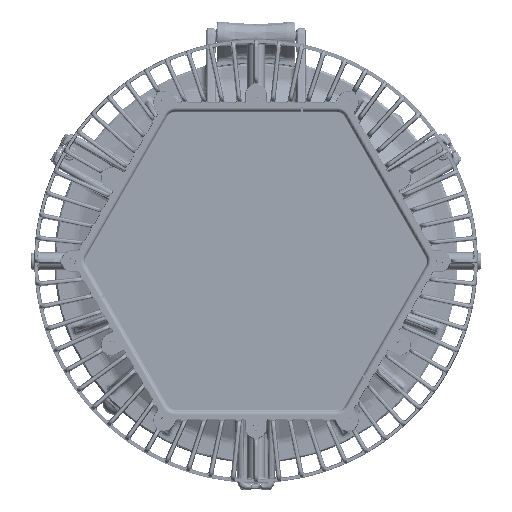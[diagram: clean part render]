
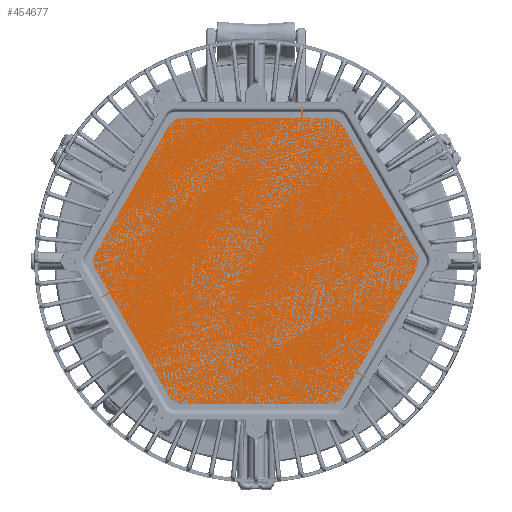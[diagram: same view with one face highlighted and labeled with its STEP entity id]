
A CAD part, front view. The second image highlights one B-rep face of the part: STEP entity #454677.
In plain terms, the highlighted planar face has unit normal (0, -1, 0) as drawn and (0, 1, 0) by its records, which use the part's own axes.
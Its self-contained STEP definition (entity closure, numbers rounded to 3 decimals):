
#454356=CARTESIAN_POINT('',(-4.845,0.125,2.797));
#454357=DIRECTION('',(0.,1.,0.));
#454358=DIRECTION('',(-1.,0.,0.));
#454359=AXIS2_PLACEMENT_3D('',#454356,#454357,#454358);
#454361=DIRECTION('',(0.,0.,1.));
#454362=VECTOR('',#454361,5.595);
#454363=CARTESIAN_POINT('',(-5.5,0.125,-2.797));
#454364=LINE('',#454363,#454362);
#454365=CARTESIAN_POINT('',(-4.845,0.125,-2.797));
#454366=DIRECTION('',(0.,1.,0.));
#454367=DIRECTION('',(-0.5,0.,-0.866));
#454368=AXIS2_PLACEMENT_3D('',#454365,#454366,#454367);
#454370=DIRECTION('',(-0.866,0.,0.5));
#454371=VECTOR('',#454370,5.595);
#454372=CARTESIAN_POINT('',(-0.328,0.125,-6.162));
#454373=LINE('',#454372,#454371);
#454374=CARTESIAN_POINT('',(0.,0.125,-5.595));
#454375=DIRECTION('',(0.,1.,0.));
#454376=DIRECTION('',(0.5,0.,-0.866));
#454377=AXIS2_PLACEMENT_3D('',#454374,#454375,#454376);
#454379=DIRECTION('',(-0.866,0.,-0.5));
#454380=VECTOR('',#454379,5.595);
#454381=CARTESIAN_POINT('',(5.173,0.125,-3.365));
#454382=LINE('',#454381,#454380);
#454383=CARTESIAN_POINT('',(4.845,0.125,-2.797));
#454384=DIRECTION('',(0.,1.,0.));
#454385=DIRECTION('',(1.,0.,0.));
#454386=AXIS2_PLACEMENT_3D('',#454383,#454384,#454385);
#454388=DIRECTION('',(0.,0.,-1.));
#454389=VECTOR('',#454388,5.595);
#454390=CARTESIAN_POINT('',(5.5,0.125,2.797));
#454391=LINE('',#454390,#454389);
#454392=CARTESIAN_POINT('',(4.845,0.125,2.797));
#454393=DIRECTION('',(0.,1.,0.));
#454394=DIRECTION('',(0.5,0.,0.866));
#454395=AXIS2_PLACEMENT_3D('',#454392,#454393,#454394);
#454397=DIRECTION('',(0.866,0.,-0.5));
#454398=VECTOR('',#454397,5.595);
#454399=CARTESIAN_POINT('',(0.328,0.125,6.162));
#454400=LINE('',#454399,#454398);
#454401=CARTESIAN_POINT('',(0.,0.125,5.595));
#454402=DIRECTION('',(0.,1.,0.));
#454403=DIRECTION('',(-0.5,0.,0.866));
#454404=AXIS2_PLACEMENT_3D('',#454401,#454402,#454403);
#454406=DIRECTION('',(0.866,0.,0.5));
#454407=VECTOR('',#454406,5.595);
#454408=CARTESIAN_POINT('',(-5.173,0.125,3.365));
#454409=LINE('',#454408,#454407);
#454414=CARTESIAN_POINT('',(-5.5,0.125,2.797));
#454415=VERTEX_POINT('',#454414);
#454416=CARTESIAN_POINT('',(-5.173,0.125,3.365));
#454417=VERTEX_POINT('',#454416);
#454422=CARTESIAN_POINT('',(-5.173,0.125,-3.365));
#454423=VERTEX_POINT('',#454422);
#454424=CARTESIAN_POINT('',(-5.5,0.125,-2.797));
#454425=VERTEX_POINT('',#454424);
#454430=CARTESIAN_POINT('',(0.328,0.125,-6.162));
#454431=VERTEX_POINT('',#454430);
#454432=CARTESIAN_POINT('',(-0.328,0.125,-6.162));
#454433=VERTEX_POINT('',#454432);
#454438=CARTESIAN_POINT('',(5.5,0.125,-2.797));
#454439=VERTEX_POINT('',#454438);
#454440=CARTESIAN_POINT('',(5.173,0.125,-3.365));
#454441=VERTEX_POINT('',#454440);
#454446=CARTESIAN_POINT('',(5.173,0.125,3.365));
#454447=VERTEX_POINT('',#454446);
#454448=CARTESIAN_POINT('',(5.5,0.125,2.797));
#454449=VERTEX_POINT('',#454448);
#454454=CARTESIAN_POINT('',(-0.328,0.125,6.162));
#454455=VERTEX_POINT('',#454454);
#454456=CARTESIAN_POINT('',(0.328,0.125,6.162));
#454457=VERTEX_POINT('',#454456);
#454658=CARTESIAN_POINT('',(0.,0.125,0.));
#454659=DIRECTION('',(0.,1.,0.));
#454660=DIRECTION('',(1.,0.,0.));
#454661=AXIS2_PLACEMENT_3D('',#454658,#454659,#454660);
#454662=PLANE('',#454661);
#454663=ORIENTED_EDGE('',*,*,#454498,.F.);
#454664=ORIENTED_EDGE('',*,*,#454514,.F.);
#454665=ORIENTED_EDGE('',*,*,#454527,.F.);
#454666=ORIENTED_EDGE('',*,*,#454542,.F.);
#454667=ORIENTED_EDGE('',*,*,#454555,.F.);
#454668=ORIENTED_EDGE('',*,*,#454570,.F.);
#454669=ORIENTED_EDGE('',*,*,#454583,.F.);
#454670=ORIENTED_EDGE('',*,*,#454598,.F.);
#454671=ORIENTED_EDGE('',*,*,#454611,.F.);
#454672=ORIENTED_EDGE('',*,*,#454626,.F.);
#454673=ORIENTED_EDGE('',*,*,#454639,.F.);
#454674=ORIENTED_EDGE('',*,*,#454651,.F.);
#454675=EDGE_LOOP('',(#454663,#454664,#454665,#454666,#454667,#454668,#454669,
#454670,#454671,#454672,#454673,#454674));
#454676=FACE_OUTER_BOUND('',#454675,.F.);
#454677=ADVANCED_FACE('',(#454676),#454662,.T.);
#454360=CIRCLE('',#454359,0.655);
#454369=CIRCLE('',#454368,0.655);
#454378=CIRCLE('',#454377,0.655);
#454387=CIRCLE('',#454386,0.655);
#454396=CIRCLE('',#454395,0.655);
#454405=CIRCLE('',#454404,0.655);
#454498=EDGE_CURVE('',#454415,#454417,#454360,.T.);
#454514=EDGE_CURVE('',#454425,#454415,#454364,.T.);
#454527=EDGE_CURVE('',#454423,#454425,#454369,.T.);
#454542=EDGE_CURVE('',#454433,#454423,#454373,.T.);
#454555=EDGE_CURVE('',#454431,#454433,#454378,.T.);
#454570=EDGE_CURVE('',#454441,#454431,#454382,.T.);
#454583=EDGE_CURVE('',#454439,#454441,#454387,.T.);
#454598=EDGE_CURVE('',#454449,#454439,#454391,.T.);
#454611=EDGE_CURVE('',#454447,#454449,#454396,.T.);
#454626=EDGE_CURVE('',#454457,#454447,#454400,.T.);
#454639=EDGE_CURVE('',#454455,#454457,#454405,.T.);
#454651=EDGE_CURVE('',#454417,#454455,#454409,.T.);
